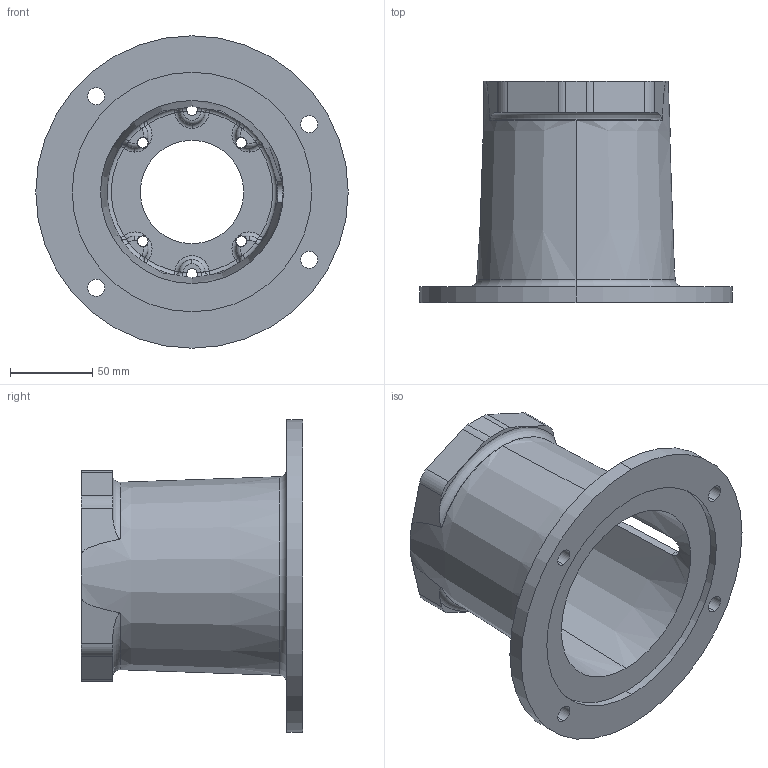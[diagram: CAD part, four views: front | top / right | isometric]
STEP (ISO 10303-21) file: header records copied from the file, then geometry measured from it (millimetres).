
FILE_DESCRIPTION (( 'STEP AP203' ), '1' );
FILE_NAME ('E5755063M.STEP', '2014-11-03T15:36:23', ( '' ), ( '' ), 'SwSTEP 2.0', 'SolidWorks 2014', '' );
FILE_SCHEMA (( 'CONFIG_CONTROL_DESIGN' ));
Length unit declared in the file: inch
Products named in the file (1): E5755063M
Bounding box: 190.5 x 134.87 x 190.5 mm (x, y, z)
Volume: 464797.3 mm3; surface area: 147407.3 mm2
Topology: 1 solids, 1 shells, 183 faces, 487 edges, 291 vertices
Faces by surface type: torus 57, cylinder 36, plane 25, sphere 24, bspline 24, cone 17
Entity records: 7676 total; most frequent: CARTESIAN_POINT 3154, DIRECTION 975, ORIENTED_EDGE 950, EDGE_CURVE 475, AXIS2_PLACEMENT_3D 452, CIRCLE 292, VERTEX_POINT 291, EDGE_LOOP 204
